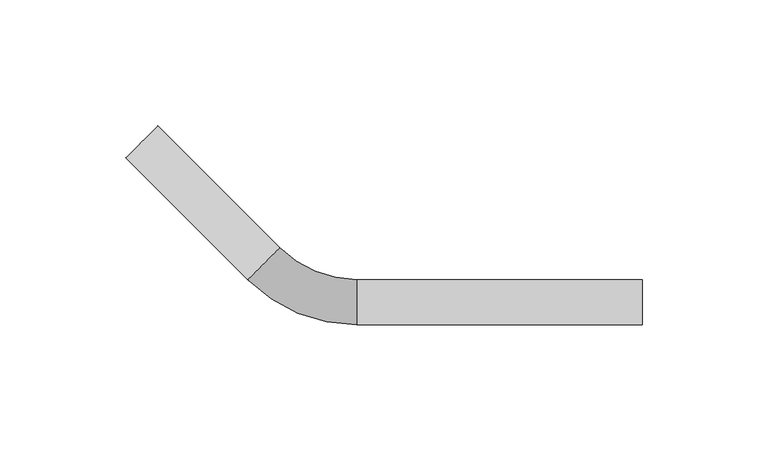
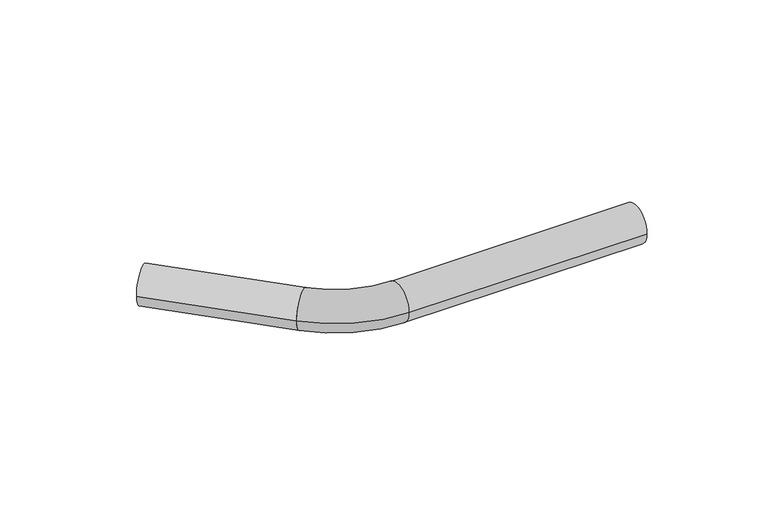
"""IFC4 building model written with IfcOpenShell, lengths in millimetres: pipe fitting geometry, VALTEC_VTi.955.I_Отвод безраструбный_нержавеющая : VTi.955.I."""

from ifc_helpers import new_model, si_unit, point, frame, origin, origin_2d, place, context, project, spatial, circle_curve, ellipse_curve, trimmed, segment, composite_curve, outline, extrude, source, transform, mapped, element, save
from ifc_brep_helpers import plane_surface, revolved_surface, advanced_brep


def pipe_fitting_09e46f73(model_context):
    return source(origin(), model_context, "Body", "SolidModel", [
        advanced_brep(
        [(21.6, -9.0, 0.0), (21.6, 9.0, 0.0), (-21.5335137, 8.8664863, 0.0), (-8.8055916, 21.5944084, 0.0)],
        [
            (0, 1, circle_curve(frame((21.6, 0.0, 0.0), z_axis=(1.0, 0.0, 0.0), x_axis=(0.0, 1.0, 0.0)), 9.0)),
            (1, 0, circle_curve(frame((21.6, 0.0, 0.0), z_axis=(1.0, 0.0, 0.0), x_axis=(0.0, 1.0, 0.0)), 9.0)),
            (2, 3, circle_curve(frame((-15.1695526, 15.2304474, 0.0), z_axis=(-0.7071067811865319, 0.7071067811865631, 0.0), x_axis=(0.7071067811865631, 0.7071067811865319, 0.0)), 9.0)),
            (3, 2, circle_curve(frame((-15.1695526, 15.2304474, 0.0), z_axis=(-0.7071067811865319, 0.7071067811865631, 0.0), x_axis=(0.7071067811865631, 0.7071067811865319, 0.0)), 9.0)),
            (2, 0, circle_curve(frame((21.6, 52.0, 0.0), z_axis=(0.0, 0.0, 1.0), x_axis=(0.0, -1.0, 0.0)), 61.0)),
            (1, 3, circle_curve(frame((21.6, 52.0, 0.0), z_axis=(0.0, 0.0, -1.0), x_axis=(0.0, -1.0, 0.0)), 43.0)),
        ],
        [
            plane_surface(frame((21.6, 0.0, 0.0), z_axis=(1.0, 0.0, 0.0), x_axis=(0.0, 0.0, 1.0))),
            plane_surface(frame((-15.1695526, 15.2304474, 0.0), z_axis=(-0.7071067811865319, 0.7071067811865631, 0.0), x_axis=(0.0, 0.0, 1.0))),
            revolved_surface(trimmed(ellipse_curve(frame((21.6, 0.0, 0.0), z_axis=(-1.0, 0.0, 0.0), x_axis=(0.0, 1.0, 0.0)), 9.0, 9.0), [point((21.6, -9.0, 0.0))], [point((21.6, 9.0, 0.0))], True, "CARTESIAN"), (21.6, 52.0, 0.0), (0.0, 0.0, 1.0)),
            revolved_surface(trimmed(ellipse_curve(frame((21.6, 0.0, 0.0), z_axis=(-1.0, 0.0, 0.0), x_axis=(0.0, 1.0, 0.0)), 9.0, 9.0), [point((21.6, 9.0, 0.0))], [point((21.6, -9.0, 0.0))], True, "CARTESIAN"), (21.6, 52.0, 0.0), (0.0, 0.0, 1.0)),
        ],
        [
            (0, [[1, 2]]),
            (1, [[3, 4]]),
            (2, [[-3, 5, -2, 6]]),
            (3, [[-4, -6, -1, -5]]),
        ],
    ),
        extrude(outline(composite_curve([segment(trimmed(circle_curve(origin_2d(), 9.0), [point((0.0, 9.0))], [point((0.0, -9.0))], False, "CARTESIAN"), True, "CONTINUOUS"), segment(trimmed(circle_curve(origin_2d(), 9.0), [point((0.0, -9.0))], [point((0.0, 9.0))], False, "CARTESIAN"), True, "CONTINUOUS")], self_intersect=False)), frame((-15.2027958, 15.2027958, 0.0), z_axis=(-0.7071067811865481, 0.707106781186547, 0.0), x_axis=(0.0, 0.0, 1.0)), (0.0, 0.0, 1.0), 68.5),
        extrude(outline(composite_curve([segment(trimmed(circle_curve(origin_2d(), 9.0), [point((9.0, 0.0))], [point((-9.0, 0.0))], False, "CARTESIAN"), True, "CONTINUOUS"), segment(trimmed(circle_curve(origin_2d(), 9.0), [point((-9.0, 0.0))], [point((9.0, 0.0))], False, "CARTESIAN"), True, "CONTINUOUS")], self_intersect=False)), frame((21.6, 0.0, 0.0), z_axis=(1.0, 0.0, 0.0), x_axis=(0.0, 1.0, 0.0)), (0.0, 0.0, 1.0), 113.4),
    ])


if __name__ == "__main__":
    model = new_model("IFC4")
    model_context = context("Model", 3, world=origin())
    ifc_project = project(units=[si_unit("LENGTHUNIT", "METRE", prefix="MILLI")], contexts=[model_context])
    site = spatial("IfcSite", under=ifc_project)
    building = spatial("IfcBuilding", under=site)
    placement = place(None, origin())
    pipe_fitting_shape = pipe_fitting_09e46f73(model_context)
    element("IfcPipeFitting", 1, ObjectType="VALTEC_VTi.955.I_Отвод безраструбный_нержавеющая : VTi.955.I", at=placement, inside=building, context=model_context, shape_type="MappedRepresentation", body=[
        mapped(pipe_fitting_shape, transform((0.0, 0.0, 0.0), x_axis=(1.0, 0.0, 0.0), y_axis=(0.0, 1.0, 0.0), z_axis=(0.0, 0.0, 1.0))),
    ])
    save(model, "model.ifc")
